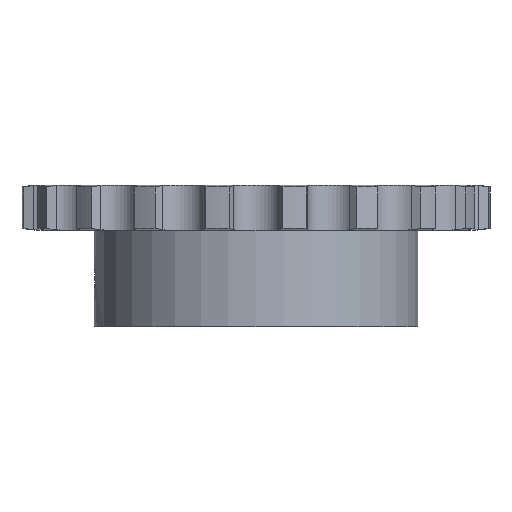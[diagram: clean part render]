
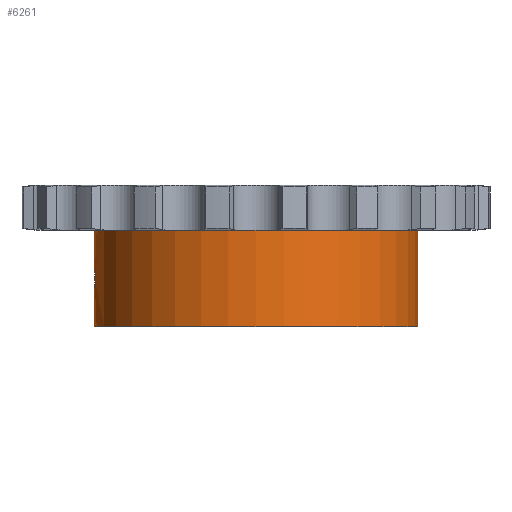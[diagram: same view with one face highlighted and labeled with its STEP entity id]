
A CAD part, front view. The second image highlights one B-rep face of the part: STEP entity #6261.
In plain terms, the highlighted cylindrical face has radius 40 mm (diameter 80 mm), a partial arc.
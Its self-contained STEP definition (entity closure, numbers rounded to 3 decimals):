
#1290=CARTESIAN_POINT('',(0.,0.,-5.55));
#1291=DIRECTION('',(0.,0.,1.));
#1292=DIRECTION('',(-1.,0.,0.));
#1293=AXIS2_PLACEMENT_3D('',#1290,#1291,#1292);
#3039=CARTESIAN_POINT('',(-40.,0.,
-14.5));
#3062=DIRECTION('',(0.,0.,1.));
#3063=VECTOR('',#3062,23.9);
#3064=CARTESIAN_POINT('',(40.,0.,-29.45));
#3065=LINE('',#3064,#3063);
#3183=CARTESIAN_POINT('',(-40.,0.,
-14.5));
#3184=CARTESIAN_POINT('',(-40.,-0.126,
-14.5));
#3185=CARTESIAN_POINT('',(-39.999,-0.405,
-14.517));
#3186=CARTESIAN_POINT('',(-39.992,-0.831,
-14.602));
#3187=CARTESIAN_POINT('',(-39.981,-1.265,
-14.758));
#3188=CARTESIAN_POINT('',(-39.966,-1.669,
-14.976));
#3189=CARTESIAN_POINT('',(-39.949,-2.033,
-15.25));
#3190=CARTESIAN_POINT('',(-39.931,-2.351,
-15.573));
#3191=CARTESIAN_POINT('',(-39.915,-2.617,
-15.94));
#3192=CARTESIAN_POINT('',(-39.9,-2.824,
-16.343));
#3193=CARTESIAN_POINT('',(-39.89,-2.967,
-16.77));
#3194=CARTESIAN_POINT('',(-39.885,-3.036,
-17.159));
#3195=CARTESIAN_POINT('',(-39.884,-3.048,
-17.402));
#3196=CARTESIAN_POINT('',(-39.884,-3.048,
-17.5));
#3201=DIRECTION('',(0.,0.,1.));
#3202=VECTOR('',#3201,8.95);
#3203=CARTESIAN_POINT('',(-40.,0.,
-14.5));
#3204=LINE('',#3203,#3202);
#3208=DIRECTION('',(0.,0.,1.));
#3209=VECTOR('',#3208,8.95);
#3210=CARTESIAN_POINT('',(-40.,0.,-29.45));
#3211=LINE('',#3210,#3209);
#3215=CARTESIAN_POINT('',(-39.884,-3.048,
-17.5));
#3216=CARTESIAN_POINT('',(-39.884,-3.048,
-17.61));
#3217=CARTESIAN_POINT('',(-39.885,-3.034,
-17.864));
#3218=CARTESIAN_POINT('',(-39.89,-2.959,
-18.263));
#3219=CARTESIAN_POINT('',(-39.901,-2.812,
-18.684));
#3220=CARTESIAN_POINT('',(-39.915,-2.603,
-19.082));
#3221=CARTESIAN_POINT('',(-39.932,-2.336,
-19.444));
#3222=CARTESIAN_POINT('',(-39.95,-2.018,
-19.762));
#3223=CARTESIAN_POINT('',(-39.966,-1.655,
-20.032));
#3224=CARTESIAN_POINT('',(-39.981,-1.254,
-20.247));
#3225=CARTESIAN_POINT('',(-39.992,-0.823,
-20.4));
#3226=CARTESIAN_POINT('',(-39.999,-0.401,
-20.483));
#3227=CARTESIAN_POINT('',(-40.,-0.125,
-20.5));
#3228=CARTESIAN_POINT('',(-40.,0.,
-20.5));
#3241=CARTESIAN_POINT('',(0.,0.,-29.45));
#3242=DIRECTION('',(0.,0.,-1.));
#3243=DIRECTION('',(1.,0.,0.));
#3244=AXIS2_PLACEMENT_3D('',#3241,#3242,#3243);
#3622=CARTESIAN_POINT('',(-40.,0.,-29.45));
#3623=CARTESIAN_POINT('',(40.,0.,-29.45));
#3624=VERTEX_POINT('',#3622);
#3625=VERTEX_POINT('',#3623);
#3626=CARTESIAN_POINT('',(40.,0.,-5.55));
#3627=VERTEX_POINT('',#3626);
#3628=CARTESIAN_POINT('',(-40.,0.,-5.55));
#3629=VERTEX_POINT('',#3628);
#3829=VERTEX_POINT('',#3039);
#3832=VERTEX_POINT('',#3196);
#3834=VERTEX_POINT('',#3228);
#6245=CARTESIAN_POINT('',(0.,0.,5.55));
#6246=DIRECTION('',(0.,0.,1.));
#6247=DIRECTION('',(1.,0.,0.));
#6248=AXIS2_PLACEMENT_3D('',#6245,#6246,#6247);
#6249=CYLINDRICAL_SURFACE('',#6248,40.);
#6250=ORIENTED_EDGE('',*,*,#6235,.F.);
#6251=ORIENTED_EDGE('',*,*,#5850,.T.);
#6252=ORIENTED_EDGE('',*,*,#5157,.T.);
#6253=ORIENTED_EDGE('',*,*,#5847,.F.);
#6255=ORIENTED_EDGE('',*,*,#6254,.T.);
#6256=ORIENTED_EDGE('',*,*,#5843,.T.);
#6258=ORIENTED_EDGE('',*,*,#6257,.F.);
#6259=EDGE_LOOP('',(#6250,#6251,#6252,#6253,#6255,#6256,#6258));
#6260=FACE_OUTER_BOUND('',#6259,.F.);
#6261=ADVANCED_FACE('',(#6260),#6249,.T.);
#1294=CIRCLE('',#1293,40.);
#3197=B_SPLINE_CURVE_WITH_KNOTS('',3,(#3183,#3184,#3185,#3186,#3187,#3188,#3189,
#3190,#3191,#3192,#3193,#3194,#3195,#3196),.UNSPECIFIED.,.F.,.F.,(4,1,1,1,1,1,1,
1,1,1,1,4),(0.,0.078,0.174,0.269,
0.364,0.459,0.555,0.65,
0.745,0.84,0.935,1.),.UNSPECIFIED.);
#3229=B_SPLINE_CURVE_WITH_KNOTS('',3,(#3215,#3216,#3217,#3218,#3219,#3220,#3221,
#3222,#3223,#3224,#3225,#3226,#3227,#3228),.UNSPECIFIED.,.F.,.F.,(4,1,1,1,1,1,1,
1,1,1,1,4),(0.,0.073,0.167,0.262,
0.356,0.45,0.545,0.639,
0.734,0.828,0.922,1.),.UNSPECIFIED.);
#3245=CIRCLE('',#3244,40.);
#5157=EDGE_CURVE('',#3629,#3627,#1294,.T.);
#5843=EDGE_CURVE('',#3624,#3834,#3211,.T.);
#5847=EDGE_CURVE('',#3625,#3627,#3065,.T.);
#5850=EDGE_CURVE('',#3829,#3629,#3204,.T.);
#6235=EDGE_CURVE('',#3829,#3832,#3197,.T.);
#6254=EDGE_CURVE('',#3625,#3624,#3245,.T.);
#6257=EDGE_CURVE('',#3832,#3834,#3229,.T.);
